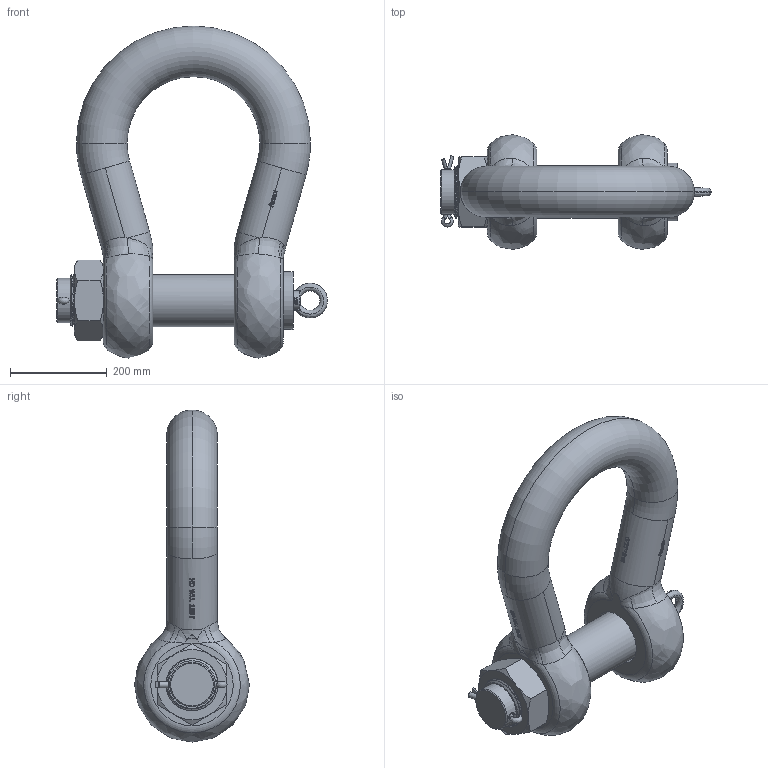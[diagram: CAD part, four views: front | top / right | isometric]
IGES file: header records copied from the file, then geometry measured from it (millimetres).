
Global section: file name: No Iges File Name specified; native system: Autodesk Inventor 2009; preprocessor: AutoDesk Inventor Iges Exporter R2009; author: Jack; date: 20091212.143812; units: millimetre
Bounding box: 561 x 238 x 688 mm (x, y, z)
Volume: 19901856.9 mm3; surface area: 944621.1 mm2
Topology: 5 solids, 5 shells, 818 faces, 2197 edges, 1441 vertices
Faces by surface type: plane 412, bspline 229, cylinder 102, revolution 36, cone 20, torus 19
Full cylindrical faces by diameter (mm): 108 x11
